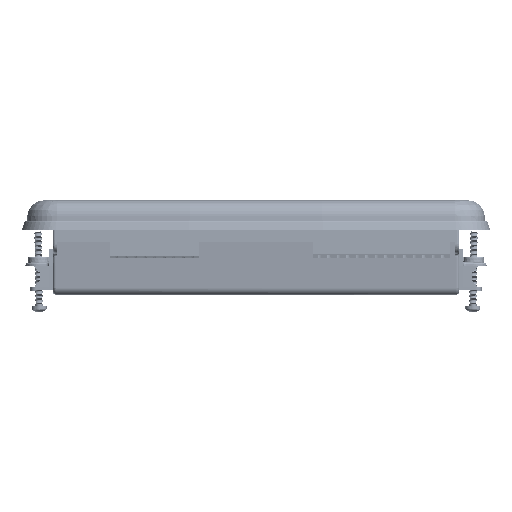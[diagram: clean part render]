
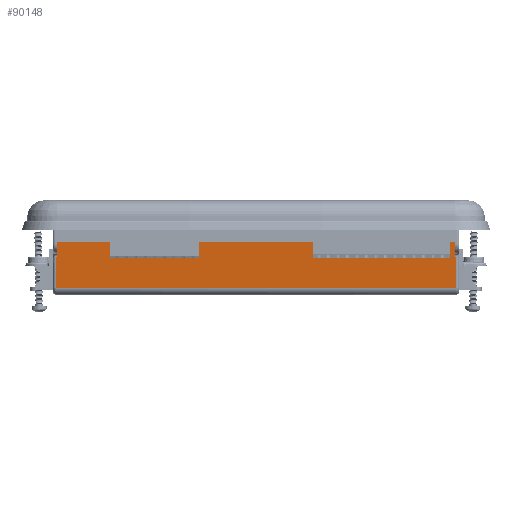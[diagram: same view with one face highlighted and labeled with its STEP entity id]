
A CAD part, front view. The second image highlights one B-rep face of the part: STEP entity #90148.
In plain terms, the highlighted planar face has unit normal (0, -0.996, -0.087).
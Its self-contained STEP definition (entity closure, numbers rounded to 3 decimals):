
#2848 = DIRECTION ( 'NONE',  ( -0.017, -0.087, 0.996 ) ) ;
#14670 = ORIENTED_EDGE ( 'NONE', *, *, #160145, .T. ) ;
#17654 = VECTOR ( 'NONE', #51361, 1000. ) ;
#21635 = CARTESIAN_POINT ( 'NONE',  ( -107.129, -64.563, -10. ) ) ;
#22151 = CARTESIAN_POINT ( 'NONE',  ( 106.363, -65.271, -1.9 ) ) ;
#23451 = PLANE ( 'NONE',  #204399 ) ;
#25064 = DIRECTION ( 'NONE',  ( -1., 0., 0. ) ) ;
#25374 = ORIENTED_EDGE ( 'NONE', *, *, #204026, .T. ) ;
#33631 = DIRECTION ( 'NONE',  ( 0.009, 0.087, -0.996 ) ) ;
#36958 = LINE ( 'NONE', #106064, #71695 ) ;
#38143 = EDGE_CURVE ( 'NONE', #177589, #153226, #139219, .T. ) ;
#43485 = ORIENTED_EDGE ( 'NONE', *, *, #182512, .T. ) ;
#43856 = CARTESIAN_POINT ( 'NONE',  ( -106.039, -66.893, 16.637 ) ) ;
#46087 = LINE ( 'NONE', #43856, #172634 ) ;
#51361 = DIRECTION ( 'NONE',  ( -0.017, 0.087, -0.996 ) ) ;
#55204 = DIRECTION ( 'NONE',  ( 0., -0.996, -0.087 ) ) ;
#55433 = CARTESIAN_POINT ( 'NONE',  ( 106.504, -64.563, -10. ) ) ;
#58310 = CARTESIAN_POINT ( 'NONE',  ( -108.5, -64.563, -10. ) ) ;
#59670 = CARTESIAN_POINT ( 'NONE',  ( -108.5, -62.778, -30.4 ) ) ;
#65541 = ORIENTED_EDGE ( 'NONE', *, *, #175588, .T. ) ;
#69478 = VECTOR ( 'NONE', #33631, 1000. ) ;
#71695 = VECTOR ( 'NONE', #2848, 1000. ) ;
#71923 = VERTEX_POINT ( 'NONE', #21635 ) ;
#76768 = ORIENTED_EDGE ( 'NONE', *, *, #204918, .T. ) ;
#83554 = EDGE_CURVE ( 'NONE', #172306, #132438, #202074, .T. ) ;
#84016 = DIRECTION ( 'NONE',  ( -0.017, -0.087, 0.996 ) ) ;
#86455 = ORIENTED_EDGE ( 'NONE', *, *, #159292, .F. ) ;
#87358 = CARTESIAN_POINT ( 'NONE',  ( 106.181, -66.184, 8.537 ) ) ;
#87681 = EDGE_LOOP ( 'NONE', ( #193755, #25374, #182580, #207855, #14670, #86455, #43485, #65541, #154261, #76768 ) ) ;
#90148 = ADVANCED_FACE ( 'NONE', ( #178693 ), #23451, .T. ) ;
#92921 = CARTESIAN_POINT ( 'NONE',  ( 107.129, -64.564, -9.987 ) ) ;
#95502 = VECTOR ( 'NONE', #160936, 1000. ) ;
#95960 = DIRECTION ( 'NONE',  ( -0.017, 0.087, -0.996 ) ) ;
#97867 = CARTESIAN_POINT ( 'NONE',  ( -106.504, -64.563, -10. ) ) ;
#106064 = CARTESIAN_POINT ( 'NONE',  ( 106.181, -66.184, 8.537 ) ) ;
#111800 = CARTESIAN_POINT ( 'NONE',  ( 107.129, -64.563, -10. ) ) ;
#111906 = VERTEX_POINT ( 'NONE', #161078 ) ;
#114399 = CARTESIAN_POINT ( 'NONE',  ( 106.501, -64.58, -9.8 ) ) ;
#116848 = CARTESIAN_POINT ( 'NONE',  ( 106.363, -65.271, -1.9 ) ) ;
#119234 = CARTESIAN_POINT ( 'NONE',  ( -106.983, -63.097, -26.749 ) ) ;
#123371 = DIRECTION ( 'NONE',  ( 1., 0., 0. ) ) ;
#124374 = DIRECTION ( 'NONE',  ( 0., 0.087, -0.996 ) ) ;
#127469 = DIRECTION ( 'NONE',  ( 1., 0., 0. ) ) ;
#127750 = VECTOR ( 'NONE', #168979, 1000. ) ;
#132438 = VERTEX_POINT ( 'NONE', #97867 ) ;
#133875 = EDGE_CURVE ( 'NONE', #184596, #111906, #207312, .T. ) ;
#139219 = LINE ( 'NONE', #209374, #165844 ) ;
#147119 = VERTEX_POINT ( 'NONE', #55433 ) ;
#149989 = CARTESIAN_POINT ( 'NONE',  ( -106.039, -66.893, 16.637 ) ) ;
#153226 = VERTEX_POINT ( 'NONE', #213205 ) ;
#153736 = LINE ( 'NONE', #222716, #69478 ) ;
#154261 = ORIENTED_EDGE ( 'NONE', *, *, #133875, .T. ) ;
#155360 = LINE ( 'NONE', #87358, #178229 ) ;
#159292 = EDGE_CURVE ( 'NONE', #147119, #204606, #196483, .T. ) ;
#160145 = EDGE_CURVE ( 'NONE', #153226, #204606, #195951, .T. ) ;
#160936 = DIRECTION ( 'NONE',  ( 0.009, -0.087, 0.996 ) ) ;
#161078 = CARTESIAN_POINT ( 'NONE',  ( -106.363, -65.271, -1.9 ) ) ;
#164589 = VECTOR ( 'NONE', #127469, 1000. ) ;
#164635 = CARTESIAN_POINT ( 'NONE',  ( -106.501, -64.58, -9.8 ) ) ;
#165844 = VECTOR ( 'NONE', #123371, 1000. ) ;
#168979 = DIRECTION ( 'NONE',  ( -1., 0., 0. ) ) ;
#172306 = VERTEX_POINT ( 'NONE', #164635 ) ;
#172634 = VECTOR ( 'NONE', #95960, 1000. ) ;
#175112 = VERTEX_POINT ( 'NONE', #114399 ) ;
#175588 = EDGE_CURVE ( 'NONE', #175112, #184596, #36958, .T. ) ;
#177589 = VERTEX_POINT ( 'NONE', #119234 ) ;
#178229 = VECTOR ( 'NONE', #84016, 1000. ) ;
#178693 = FACE_OUTER_BOUND ( 'NONE', #87681, .T. ) ;
#180284 = CARTESIAN_POINT ( 'NONE',  ( -108.5, -64.563, -10. ) ) ;
#182512 = EDGE_CURVE ( 'NONE', #147119, #175112, #155360, .T. ) ;
#182580 = ORIENTED_EDGE ( 'NONE', *, *, #220078, .T. ) ;
#184596 = VERTEX_POINT ( 'NONE', #22151 ) ;
#184739 = LINE ( 'NONE', #180284, #190227 ) ;
#190227 = VECTOR ( 'NONE', #25064, 1000. ) ;
#193755 = ORIENTED_EDGE ( 'NONE', *, *, #83554, .T. ) ;
#195951 = LINE ( 'NONE', #92921, #95502 ) ;
#196483 = LINE ( 'NONE', #58310, #164589 ) ;
#202074 = LINE ( 'NONE', #149989, #17654 ) ;
#204026 = EDGE_CURVE ( 'NONE', #132438, #71923, #184739, .T. ) ;
#204399 = AXIS2_PLACEMENT_3D ( 'NONE', #59670, #55204, #124374 ) ;
#204606 = VERTEX_POINT ( 'NONE', #111800 ) ;
#204918 = EDGE_CURVE ( 'NONE', #111906, #172306, #46087, .T. ) ;
#207312 = LINE ( 'NONE', #116848, #127750 ) ;
#207855 = ORIENTED_EDGE ( 'NONE', *, *, #38143, .T. ) ;
#209374 = CARTESIAN_POINT ( 'NONE',  ( -108.5, -63.097, -26.749 ) ) ;
#213205 = CARTESIAN_POINT ( 'NONE',  ( 106.983, -63.097, -26.749 ) ) ;
#220078 = EDGE_CURVE ( 'NONE', #71923, #177589, #153736, .T. ) ;
#222716 = CARTESIAN_POINT ( 'NONE',  ( -106.951, -62.779, -30.387 ) ) ;
